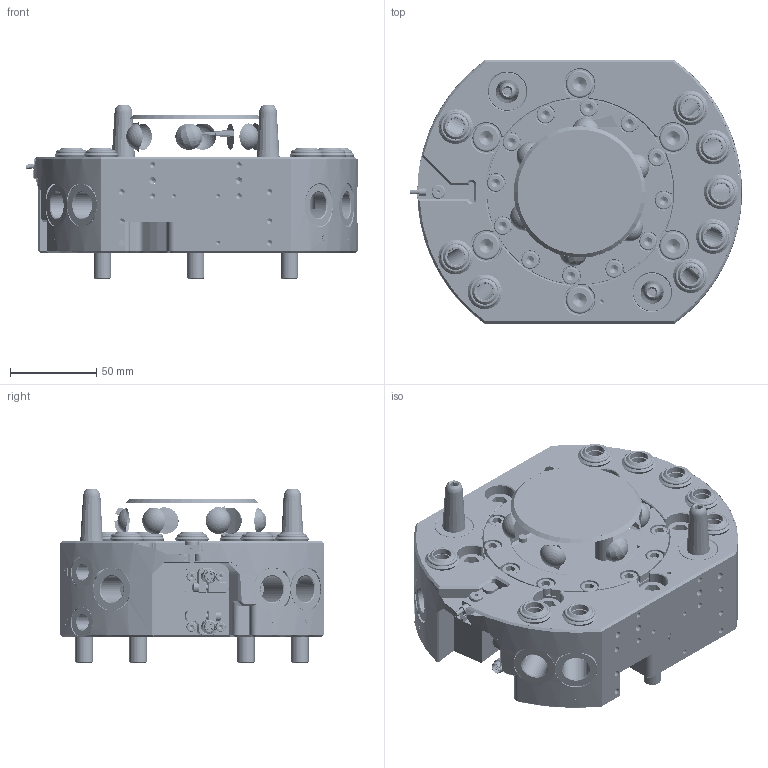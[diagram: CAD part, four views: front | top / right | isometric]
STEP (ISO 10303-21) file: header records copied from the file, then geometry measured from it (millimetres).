
FILE_DESCRIPTION (( 'STEP AP203' ), '1' );
FILE_NAME ('1.STEP', '2024-03-20T01:29:55', ( '微软用户' ), ( '微软中国' ), 'SwSTEP 2.0', 'SolidWorks 2018', '' );
FILE_SCHEMA (( 'CONFIG_CONTROL_DESIGN' ));
Products named in the file (1): 1
Bounding box: 192.26 x 152.4 x 100.5 mm (x, y, z)
Surface area: 167189.2 mm2 (no closed solid volume)
Topology: 0 solids, 1695 shells, 2354 faces, 8825 edges, 7493 vertices
Faces by surface type: plane 774, cylinder 692, cone 570, torus 224, bspline 77, sphere 17
Full cylindrical faces by diameter (mm): 15.25 x4
Entity records: 183694 total; most frequent: CARTESIAN_POINT 113649, DIRECTION 14542, ORIENTED_EDGE 9873, EDGE_CURVE 8636, VERTEX_POINT 7471, AXIS2_PLACEMENT_3D 5346, LINE 3850, VECTOR 3850
